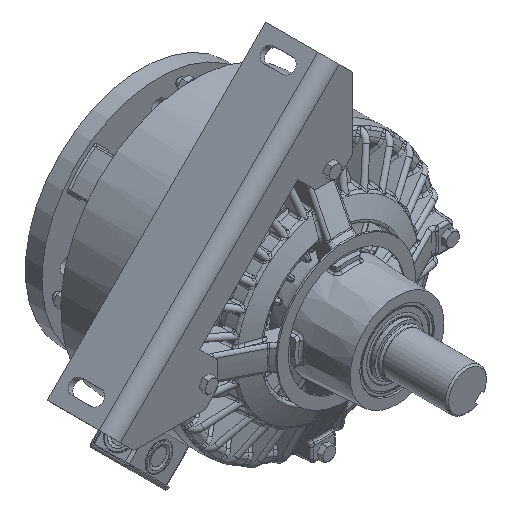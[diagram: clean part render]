
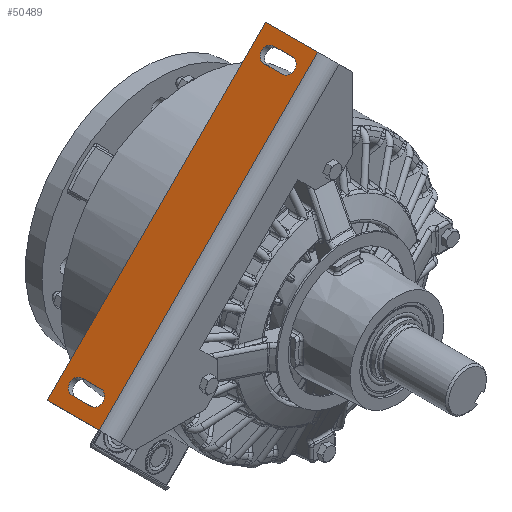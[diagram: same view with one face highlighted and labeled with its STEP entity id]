
A CAD part, isometric view. The second image highlights one B-rep face of the part: STEP entity #50489.
In plain terms, the highlighted planar face has unit normal (-0.707, 0, 0.707).
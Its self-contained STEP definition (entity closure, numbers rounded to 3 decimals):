
#2495=FACE_BOUND('',#11577,.T.);
#2496=FACE_BOUND('',#11578,.T.);
#3018=LINE('',#77412,#5339);
#3019=LINE('',#77414,#5340);
#3020=LINE('',#77416,#5341);
#3021=LINE('',#77417,#5342);
#3022=LINE('',#77422,#5343);
#3023=LINE('',#77425,#5344);
#3024=LINE('',#77430,#5345);
#3025=LINE('',#77433,#5346);
#5339=VECTOR('',#60850,39.37);
#5340=VECTOR('',#60851,39.37);
#5341=VECTOR('',#60852,39.37);
#5342=VECTOR('',#60853,39.37);
#5343=VECTOR('',#60856,39.37);
#5344=VECTOR('',#60859,39.37);
#5345=VECTOR('',#60862,39.37);
#5346=VECTOR('',#60865,39.37);
#7352=PLANE('',#54118);
#8198=FACE_OUTER_BOUND('',#11576,.T.);
#11576=EDGE_LOOP('',(#34796,#34797,#34798,#34799));
#11577=EDGE_LOOP('',(#34800,#34801,#34802,#34803));
#11578=EDGE_LOOP('',(#34804,#34805,#34806,#34807));
#17296=CIRCLE('',#54119,0.281);
#17297=CIRCLE('',#54120,0.281);
#17298=CIRCLE('',#54121,0.281);
#17299=CIRCLE('',#54122,0.281);
#21032=VERTEX_POINT('',#77410);
#21033=VERTEX_POINT('',#77411);
#21034=VERTEX_POINT('',#77413);
#21035=VERTEX_POINT('',#77415);
#21036=VERTEX_POINT('',#77418);
#21037=VERTEX_POINT('',#77419);
#21038=VERTEX_POINT('',#77421);
#21039=VERTEX_POINT('',#77423);
#21040=VERTEX_POINT('',#77426);
#21041=VERTEX_POINT('',#77427);
#21042=VERTEX_POINT('',#77429);
#21043=VERTEX_POINT('',#77431);
#26109=EDGE_CURVE('',#21032,#21033,#3018,.T.);
#26110=EDGE_CURVE('',#21034,#21033,#3019,.T.);
#26111=EDGE_CURVE('',#21034,#21035,#3020,.T.);
#26112=EDGE_CURVE('',#21035,#21032,#3021,.T.);
#26113=EDGE_CURVE('',#21036,#21037,#17296,.T.);
#26114=EDGE_CURVE('',#21037,#21038,#3022,.T.);
#26115=EDGE_CURVE('',#21038,#21039,#17297,.T.);
#26116=EDGE_CURVE('',#21039,#21036,#3023,.T.);
#26117=EDGE_CURVE('',#21040,#21041,#17298,.T.);
#26118=EDGE_CURVE('',#21042,#21040,#3024,.T.);
#26119=EDGE_CURVE('',#21043,#21042,#17299,.T.);
#26120=EDGE_CURVE('',#21041,#21043,#3025,.T.);
#34796=ORIENTED_EDGE('',*,*,#26109,.T.);
#34797=ORIENTED_EDGE('',*,*,#26110,.F.);
#34798=ORIENTED_EDGE('',*,*,#26111,.T.);
#34799=ORIENTED_EDGE('',*,*,#26112,.T.);
#34800=ORIENTED_EDGE('',*,*,#26113,.T.);
#34801=ORIENTED_EDGE('',*,*,#26114,.T.);
#34802=ORIENTED_EDGE('',*,*,#26115,.T.);
#34803=ORIENTED_EDGE('',*,*,#26116,.T.);
#34804=ORIENTED_EDGE('',*,*,#26117,.F.);
#34805=ORIENTED_EDGE('',*,*,#26118,.F.);
#34806=ORIENTED_EDGE('',*,*,#26119,.F.);
#34807=ORIENTED_EDGE('',*,*,#26120,.F.);
#50489=ADVANCED_FACE('',(#8198,#2495,#2496),#7352,.T.);
#54118=AXIS2_PLACEMENT_3D('',#77409,#60848,#60849);
#54119=AXIS2_PLACEMENT_3D('',#77420,#60854,#60855);
#54120=AXIS2_PLACEMENT_3D('',#77424,#60857,#60858);
#54121=AXIS2_PLACEMENT_3D('',#77428,#60860,#60861);
#54122=AXIS2_PLACEMENT_3D('',#77432,#60863,#60864);
#60848=DIRECTION('center_axis',(-0.707,0.,
0.707));
#60849=DIRECTION('ref_axis',(0.707,0.,0.707));
#60850=DIRECTION('',(-0.707,0.,-0.707));
#60851=DIRECTION('',(0.,1.,0.));
#60852=DIRECTION('',(0.707,0.,0.707));
#60853=DIRECTION('',(0.,1.,0.));
#60854=DIRECTION('center_axis',(0.707,0.,-0.707));
#60855=DIRECTION('ref_axis',(-0.707,0.,-0.707));
#60856=DIRECTION('',(0.,-1.,0.));
#60857=DIRECTION('center_axis',(0.707,0.,-0.707));
#60858=DIRECTION('ref_axis',(-0.707,0.,-0.707));
#60859=DIRECTION('',(0.,1.,0.));
#60860=DIRECTION('center_axis',(-0.707,0.,
0.707));
#60861=DIRECTION('ref_axis',(0.707,0.,0.707));
#60862=DIRECTION('',(0.,1.,0.));
#60863=DIRECTION('center_axis',(-0.707,0.,
0.707));
#60864=DIRECTION('ref_axis',(0.707,0.,0.707));
#60865=DIRECTION('',(0.,-1.,0.));
#77409=CARTESIAN_POINT('Origin',(-4.331,-1.56,4.331));
#77410=CARTESIAN_POINT('',(0.,1.003,8.662));
#77411=CARTESIAN_POINT('',(-8.662,1.003,0.));
#77412=CARTESIAN_POINT('',(0.,1.003,8.662));
#77413=CARTESIAN_POINT('',(-8.662,-1.06,0.));
#77414=CARTESIAN_POINT('',(-8.662,-1.56,0.));
#77415=CARTESIAN_POINT('',(0.,-1.06,8.662));
#77416=CARTESIAN_POINT('',(-4.331,-1.06,4.331));
#77417=CARTESIAN_POINT('',(0.,-1.56,8.662));
#77418=CARTESIAN_POINT('',(-8.33,0.346,0.332));
#77419=CARTESIAN_POINT('',(-7.933,0.346,0.729));
#77420=CARTESIAN_POINT('Origin',(-8.132,0.346,0.531));
#77421=CARTESIAN_POINT('',(-7.933,-0.404,0.729));
#77422=CARTESIAN_POINT('',(-7.933,0.346,0.729));
#77423=CARTESIAN_POINT('',(-8.33,-0.404,0.332));
#77424=CARTESIAN_POINT('Origin',(-8.132,-0.404,0.531));
#77425=CARTESIAN_POINT('',(-8.33,0.346,0.332));
#77426=CARTESIAN_POINT('',(-0.331,0.346,8.331));
#77427=CARTESIAN_POINT('',(-0.729,0.346,7.933));
#77428=CARTESIAN_POINT('Origin',(-0.53,0.346,8.132));
#77429=CARTESIAN_POINT('',(-0.331,-0.404,8.331));
#77430=CARTESIAN_POINT('',(-0.331,0.346,8.331));
#77431=CARTESIAN_POINT('',(-0.729,-0.404,7.933));
#77432=CARTESIAN_POINT('Origin',(-0.53,-0.404,
8.132));
#77433=CARTESIAN_POINT('',(-0.729,0.346,7.933));
